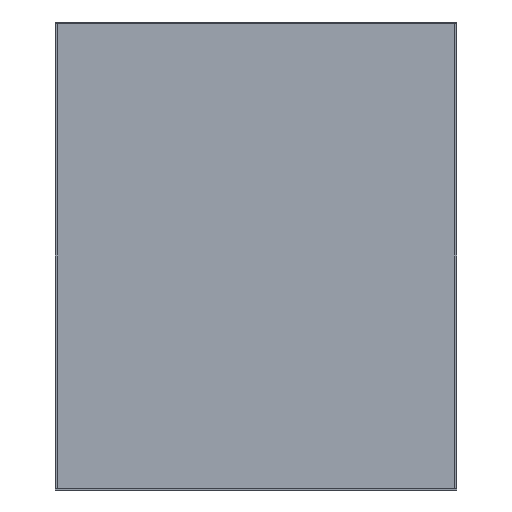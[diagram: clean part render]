
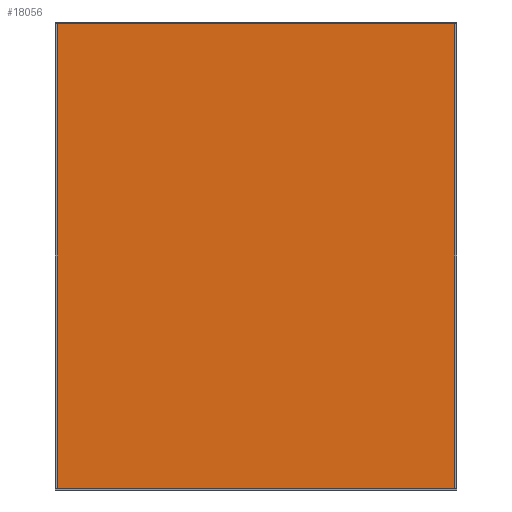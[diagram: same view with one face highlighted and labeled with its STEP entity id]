
A CAD part, front view. The second image highlights one B-rep face of the part: STEP entity #18056.
In plain terms, the highlighted planar face has unit normal (0, -1, 0).
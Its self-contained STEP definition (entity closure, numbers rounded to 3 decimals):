
#17840 = EDGE_CURVE('',#17841,#17843,#17845,.T.);
#17841 = VERTEX_POINT('',#17842);
#17842 = CARTESIAN_POINT('',(-0.155,-0.096,0.002)
  );
#17843 = VERTEX_POINT('',#17844);
#17844 = CARTESIAN_POINT('',(-0.155,-0.096,
    0.364));
#17845 = SURFACE_CURVE('',#17846,(#17850,#17862),.PCURVE_S1.);
#17846 = LINE('',#17847,#17848);
#17847 = CARTESIAN_POINT('',(-0.155,-0.096,0.002)
  );
#17848 = VECTOR('',#17849,1.);
#17849 = DIRECTION('',(0.,0.,1.));
#17850 = PCURVE('',#17851,#17856);
#17851 = PLANE('',#17852);
#17852 = AXIS2_PLACEMENT_3D('',#17853,#17854,#17855);
#17853 = CARTESIAN_POINT('',(-0.155,-0.096,0.002)
  );
#17854 = DIRECTION('',(1.,0.,0.));
#17855 = DIRECTION('',(0.,0.,1.));
#17856 = DEFINITIONAL_REPRESENTATION('',(#17857),#17861);
#17857 = LINE('',#17858,#17859);
#17858 = CARTESIAN_POINT('',(0.,0.));
#17859 = VECTOR('',#17860,1.);
#17860 = DIRECTION('',(1.,0.));
#17861 = ( GEOMETRIC_REPRESENTATION_CONTEXT(2) 
PARAMETRIC_REPRESENTATION_CONTEXT() REPRESENTATION_CONTEXT('2D SPACE',''
  ) );
#17862 = PCURVE('',#17863,#17868);
#17863 = PLANE('',#17864);
#17864 = AXIS2_PLACEMENT_3D('',#17865,#17866,#17867);
#17865 = CARTESIAN_POINT('',(-0.155,-0.096,0.002)
  );
#17866 = DIRECTION('',(0.,1.,0.));
#17867 = DIRECTION('',(0.,0.,1.));
#17868 = DEFINITIONAL_REPRESENTATION('',(#17869),#17873);
#17869 = LINE('',#17870,#17871);
#17870 = CARTESIAN_POINT('',(0.,0.));
#17871 = VECTOR('',#17872,1.);
#17872 = DIRECTION('',(1.,0.));
#17873 = ( GEOMETRIC_REPRESENTATION_CONTEXT(2) 
PARAMETRIC_REPRESENTATION_CONTEXT() REPRESENTATION_CONTEXT('2D SPACE',''
  ) );
#17891 = PLANE('',#17892);
#17892 = AXIS2_PLACEMENT_3D('',#17893,#17894,#17895);
#17893 = CARTESIAN_POINT('',(-0.155,-0.096,0.002)
  );
#17894 = DIRECTION('',(0.,0.,1.));
#17895 = DIRECTION('',(1.,0.,0.));
#17945 = PLANE('',#17946);
#17946 = AXIS2_PLACEMENT_3D('',#17947,#17948,#17949);
#17947 = CARTESIAN_POINT('',(-0.155,-0.096,
    0.364));
#17948 = DIRECTION('',(0.,0.,1.));
#17949 = DIRECTION('',(1.,0.,0.));
#17960 = EDGE_CURVE('',#17961,#17963,#17965,.T.);
#17961 = VERTEX_POINT('',#17962);
#17962 = CARTESIAN_POINT('',(0.155,-0.096,0.002)
  );
#17963 = VERTEX_POINT('',#17964);
#17964 = CARTESIAN_POINT('',(0.155,-0.096,
    0.364));
#17965 = SURFACE_CURVE('',#17966,(#17970,#17982),.PCURVE_S1.);
#17966 = LINE('',#17967,#17968);
#17967 = CARTESIAN_POINT('',(0.155,-0.096,0.002)
  );
#17968 = VECTOR('',#17969,1.);
#17969 = DIRECTION('',(0.,0.,1.));
#17970 = PCURVE('',#17971,#17976);
#17971 = PLANE('',#17972);
#17972 = AXIS2_PLACEMENT_3D('',#17973,#17974,#17975);
#17973 = CARTESIAN_POINT('',(0.155,-0.096,0.002)
  );
#17974 = DIRECTION('',(1.,0.,0.));
#17975 = DIRECTION('',(0.,0.,1.));
#17976 = DEFINITIONAL_REPRESENTATION('',(#17977),#17981);
#17977 = LINE('',#17978,#17979);
#17978 = CARTESIAN_POINT('',(0.,0.));
#17979 = VECTOR('',#17980,1.);
#17980 = DIRECTION('',(1.,0.));
#17981 = ( GEOMETRIC_REPRESENTATION_CONTEXT(2) 
PARAMETRIC_REPRESENTATION_CONTEXT() REPRESENTATION_CONTEXT('2D SPACE',''
  ) );
#17982 = PCURVE('',#17863,#17983);
#17983 = DEFINITIONAL_REPRESENTATION('',(#17984),#17988);
#17984 = LINE('',#17985,#17986);
#17985 = CARTESIAN_POINT('',(0.,0.31));
#17986 = VECTOR('',#17987,1.);
#17987 = DIRECTION('',(1.,0.));
#17988 = ( GEOMETRIC_REPRESENTATION_CONTEXT(2) 
PARAMETRIC_REPRESENTATION_CONTEXT() REPRESENTATION_CONTEXT('2D SPACE',''
  ) );
#18056 = ADVANCED_FACE('',(#18057),#17863,.F.);
#18057 = FACE_BOUND('',#18058,.F.);
#18058 = EDGE_LOOP('',(#18059,#18080,#18081,#18102));
#18059 = ORIENTED_EDGE('',*,*,#18060,.F.);
#18060 = EDGE_CURVE('',#17841,#17961,#18061,.T.);
#18061 = SURFACE_CURVE('',#18062,(#18066,#18073),.PCURVE_S1.);
#18062 = LINE('',#18063,#18064);
#18063 = CARTESIAN_POINT('',(-0.155,-0.096,0.002)
  );
#18064 = VECTOR('',#18065,1.);
#18065 = DIRECTION('',(1.,0.,0.));
#18066 = PCURVE('',#17863,#18067);
#18067 = DEFINITIONAL_REPRESENTATION('',(#18068),#18072);
#18068 = LINE('',#18069,#18070);
#18069 = CARTESIAN_POINT('',(0.,0.));
#18070 = VECTOR('',#18071,1.);
#18071 = DIRECTION('',(0.,1.));
#18072 = ( GEOMETRIC_REPRESENTATION_CONTEXT(2) 
PARAMETRIC_REPRESENTATION_CONTEXT() REPRESENTATION_CONTEXT('2D SPACE',''
  ) );
#18073 = PCURVE('',#17891,#18074);
#18074 = DEFINITIONAL_REPRESENTATION('',(#18075),#18079);
#18075 = LINE('',#18076,#18077);
#18076 = CARTESIAN_POINT('',(0.,0.));
#18077 = VECTOR('',#18078,1.);
#18078 = DIRECTION('',(1.,0.));
#18079 = ( GEOMETRIC_REPRESENTATION_CONTEXT(2) 
PARAMETRIC_REPRESENTATION_CONTEXT() REPRESENTATION_CONTEXT('2D SPACE',''
  ) );
#18080 = ORIENTED_EDGE('',*,*,#17840,.T.);
#18081 = ORIENTED_EDGE('',*,*,#18082,.T.);
#18082 = EDGE_CURVE('',#17843,#17963,#18083,.T.);
#18083 = SURFACE_CURVE('',#18084,(#18088,#18095),.PCURVE_S1.);
#18084 = LINE('',#18085,#18086);
#18085 = CARTESIAN_POINT('',(-0.155,-0.096,
    0.364));
#18086 = VECTOR('',#18087,1.);
#18087 = DIRECTION('',(1.,0.,0.));
#18088 = PCURVE('',#17863,#18089);
#18089 = DEFINITIONAL_REPRESENTATION('',(#18090),#18094);
#18090 = LINE('',#18091,#18092);
#18091 = CARTESIAN_POINT('',(0.362,0.));
#18092 = VECTOR('',#18093,1.);
#18093 = DIRECTION('',(0.,1.));
#18094 = ( GEOMETRIC_REPRESENTATION_CONTEXT(2) 
PARAMETRIC_REPRESENTATION_CONTEXT() REPRESENTATION_CONTEXT('2D SPACE',''
  ) );
#18095 = PCURVE('',#17945,#18096);
#18096 = DEFINITIONAL_REPRESENTATION('',(#18097),#18101);
#18097 = LINE('',#18098,#18099);
#18098 = CARTESIAN_POINT('',(0.,0.));
#18099 = VECTOR('',#18100,1.);
#18100 = DIRECTION('',(1.,0.));
#18101 = ( GEOMETRIC_REPRESENTATION_CONTEXT(2) 
PARAMETRIC_REPRESENTATION_CONTEXT() REPRESENTATION_CONTEXT('2D SPACE',''
  ) );
#18102 = ORIENTED_EDGE('',*,*,#17960,.F.);
